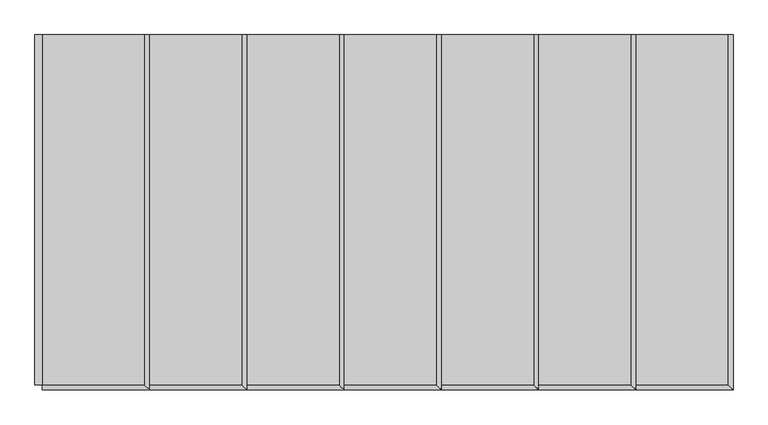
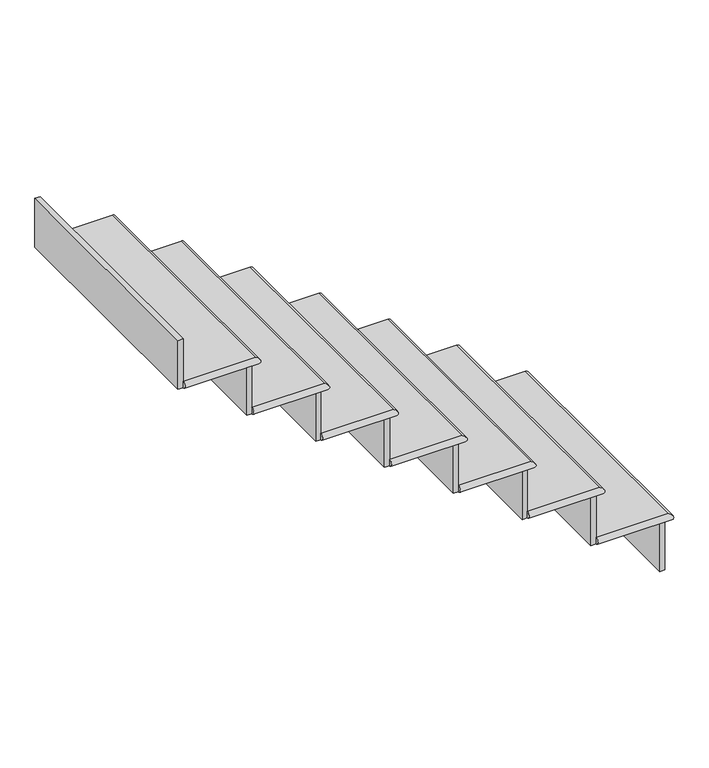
"""IFC4 building model written with IfcOpenShell, lengths in millimetres: stair flight geometry."""

from ifc_helpers import new_model, si_unit, frame, origin, place, context, project, spatial, circle_curve, ellipse_curve, faceted_brep, source, transform, mapped, element, save
from ifc_brep_helpers import plane_surface, cylinder_surface, advanced_brep


def stair_flight_56650358(model_context):
    return source(origin(), model_context, "Body", "SolidModel", [
        advanced_brep(
        [(-16016.7481446, -6.4871906, 1689.1), (-16016.7481446, -6.4871906, 1714.5), (-16016.7481446, -920.8871906, 1714.5), (-16016.7481446, -920.8871906, 1689.1), (-16283.4481446, -6.4871906, 1714.5), (-16283.4481446, -920.8871906, 1714.5), (-16283.4481446, -6.4871906, 1689.1), (-16283.4481446, -920.8871906, 1689.1)],
        [
            (0, 1, circle_curve(frame((-16016.7481446, -6.4871906, 1701.8), z_axis=(0.0, -1.0, 0.0), x_axis=(-1.0, 0.0, 0.0)), 12.7)),
            (1, 2),
            (2, 3, ellipse_curve(frame((-16016.7481446, -920.8871906, 1701.8), z_axis=(0.7071067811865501, 0.7071067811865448, 0.0), x_axis=(-0.7071067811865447, 0.7071067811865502, 0.0)), 17.9605122, 12.7)),
            (3, 0),
            (1, 4),
            (4, 5),
            (5, 2),
            (6, 0),
            (3, 7),
            (7, 6),
            (6, 4),
            (7, 5, circle_curve(frame((-16283.4481446, -920.8871906, 1701.8), z_axis=(-1.0, 0.0, 0.0), x_axis=(0.0, 1.0, 0.0)), 12.7)),
        ],
        [
            cylinder_surface(frame((-16016.7481446, -6.4871906, 1701.8), z_axis=(0.0, 1.0, 0.0), x_axis=(-1.0, 0.0, 0.0)), 12.7),
            plane_surface(frame((-16004.0481446, -920.8871906, 1714.5), z_axis=(0.0, 0.0, 1.0), x_axis=(1.0, 0.0, 0.0))),
            plane_surface(frame((-16004.0481446, -920.8871906, 1689.1), z_axis=(0.0, 0.0, -1.0), x_axis=(-1.0, 0.0, 0.0))),
            plane_surface(frame((-16016.7481446, -6.4871906, 1714.5), z_axis=(0.0, 1.0, 0.0), x_axis=(0.0, 0.0, -1.0))),
            plane_surface(frame((-16283.4481446, -6.4871906, 1714.5), z_axis=(-1.0, 0.0, 0.0), x_axis=(0.0, 0.0, -1.0))),
            cylinder_surface(frame((-16016.7481446, -920.8871906, 1701.8), z_axis=(1.0, 0.0, 0.0), x_axis=(0.0, 1.0, 0.0)), 12.7),
        ],
        [
            (0, [[1, 2, 3, 4]]),
            (1, [[5, 6, 7, -2]]),
            (2, [[8, -4, 9, 10]]),
            (3, [[-5, -1, -8, 11]]),
            (4, [[-6, -11, -10, 12]]),
            (5, [[-3, -7, -12, -9]]),
        ],
    ),
        faceted_brep([(-16029.4481446, -6.4871906, 1689.1), (-16029.4481446, -6.4871906, 1498.6), (-16048.4981446, -6.4871906, 1498.6), (-16048.4981446, -6.4871906, 1689.1), (-16029.4481446, -920.8871906, 1689.1), (-16048.4981446, -920.8871906, 1689.1), (-16048.4981446, -920.8871906, 1498.6), (-16029.4481446, -920.8871906, 1498.6)], [[[0, 1, 2, 3]], [[4, 5, 6, 7]], [[1, 0, 4, 7]], [[2, 1, 7, 6]], [[3, 2, 6, 5]], [[0, 3, 5, 4]]]),
        faceted_brep([(-16283.4481446, -6.4871906, 1879.6), (-16283.4481446, -6.4871906, 1689.1), (-16302.4981446, -6.4871906, 1689.1), (-16302.4981446, -6.4871906, 1879.6), (-16283.4481446, -920.8871906, 1879.6), (-16302.4981446, -920.8871906, 1879.6), (-16302.4981446, -920.8871906, 1689.1), (-16283.4481446, -920.8871906, 1689.1)], [[[0, 1, 2, 3]], [[4, 5, 6, 7]], [[1, 0, 4, 7]], [[2, 1, 7, 6]], [[3, 2, 6, 5]], [[0, 3, 5, 4]]]),
        advanced_brep(
        [(-16270.7481446, -6.4871906, 1905.0), (-16537.4481446, -6.4871906, 1905.0), (-16537.4481446, -920.8871906, 1905.0), (-16270.7481446, -920.8871906, 1905.0), (-16537.4481446, -6.4871906, 1879.6), (-16270.7481446, -6.4871906, 1879.6), (-16270.7481446, -920.8871906, 1879.6), (-16537.4481446, -920.8871906, 1879.6)],
        [
            (0, 1),
            (1, 2),
            (2, 3),
            (3, 0),
            (4, 5),
            (5, 6),
            (6, 7),
            (7, 4),
            (0, 5, circle_curve(frame((-16270.7481446, -6.4871906, 1892.3), z_axis=(0.0, 1.0, 0.0), x_axis=(-1.0, 0.0, 0.0)), 12.7)),
            (4, 1),
            (7, 2, circle_curve(frame((-16537.4481446, -920.8871906, 1892.3), z_axis=(-1.0, 0.0, 0.0), x_axis=(0.0, 1.0, 0.0)), 12.7)),
            (3, 6, ellipse_curve(frame((-16270.7481446, -920.8871906, 1892.3), z_axis=(0.7071067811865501, 0.7071067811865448, 0.0), x_axis=(-0.7071067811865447, 0.7071067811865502, 0.0)), 17.9605122, 12.7)),
        ],
        [
            plane_surface(frame((-16258.0481446, -920.8871906, 1905.0), z_axis=(0.0, 0.0, 1.0), x_axis=(1.0, 0.0, 0.0))),
            plane_surface(frame((-16258.0481446, -920.8871906, 1879.6), z_axis=(0.0, 0.0, -1.0), x_axis=(-1.0, 0.0, 0.0))),
            plane_surface(frame((-16270.7481446, -6.4871906, 1905.0), z_axis=(0.0, 1.0, 0.0), x_axis=(0.0, 0.0, -1.0))),
            plane_surface(frame((-16537.4481446, -6.4871906, 1905.0), z_axis=(-1.0, 0.0, 0.0), x_axis=(0.0, 0.0, -1.0))),
            cylinder_surface(frame((-16270.7481446, -6.4871906, 1892.3), z_axis=(0.0, 1.0, 0.0), x_axis=(-1.0, 0.0, 0.0)), 12.7),
            cylinder_surface(frame((-16270.7481446, -920.8871906, 1892.3), z_axis=(1.0, 0.0, 0.0), x_axis=(0.0, 1.0, 0.0)), 12.7),
        ],
        [
            (0, [[1, 2, 3, 4]]),
            (1, [[5, 6, 7, 8]]),
            (2, [[-1, 9, -5, 10]]),
            (3, [[-2, -10, -8, 11]]),
            (4, [[-9, -4, 12, -6]]),
            (5, [[-12, -3, -11, -7]]),
        ],
    ),
        faceted_brep([(-16537.4481446, -6.4871906, 2070.1), (-16537.4481446, -6.4871906, 1879.6), (-16556.4981446, -6.4871906, 1879.6), (-16556.4981446, -6.4871906, 2070.1), (-16537.4481446, -920.8871906, 2070.1), (-16556.4981446, -920.8871906, 2070.1), (-16556.4981446, -920.8871906, 1879.6), (-16537.4481446, -920.8871906, 1879.6)], [[[0, 1, 2, 3]], [[4, 5, 6, 7]], [[1, 0, 4, 7]], [[2, 1, 7, 6]], [[3, 2, 6, 5]], [[0, 3, 5, 4]]]),
        advanced_brep(
        [(-16524.7481446, -6.4871906, 2095.5), (-16791.4481446, -6.4871906, 2095.5), (-16791.4481446, -920.8871906, 2095.5), (-16524.7481446, -920.8871906, 2095.5), (-16791.4481446, -6.4871906, 2070.1), (-16524.7481446, -6.4871906, 2070.1), (-16524.7481446, -920.8871906, 2070.1), (-16791.4481446, -920.8871906, 2070.1)],
        [
            (0, 1),
            (1, 2),
            (2, 3),
            (3, 0),
            (4, 5),
            (5, 6),
            (6, 7),
            (7, 4),
            (0, 5, circle_curve(frame((-16524.7481446, -6.4871906, 2082.8), z_axis=(0.0, 1.0, 0.0), x_axis=(-1.0, 0.0, 0.0)), 12.7)),
            (4, 1),
            (7, 2, circle_curve(frame((-16791.4481446, -920.8871906, 2082.8), z_axis=(-1.0, 0.0, 0.0), x_axis=(0.0, 1.0, 0.0)), 12.7)),
            (3, 6, ellipse_curve(frame((-16524.7481446, -920.8871906, 2082.8), z_axis=(0.7071067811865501, 0.7071067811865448, 0.0), x_axis=(-0.7071067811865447, 0.7071067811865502, 0.0)), 17.9605122, 12.7)),
        ],
        [
            plane_surface(frame((-16512.0481446, -920.8871906, 2095.5), z_axis=(0.0, 0.0, 1.0), x_axis=(1.0, 0.0, 0.0))),
            plane_surface(frame((-16512.0481446, -920.8871906, 2070.1), z_axis=(0.0, 0.0, -1.0), x_axis=(-1.0, 0.0, 0.0))),
            plane_surface(frame((-16524.7481446, -6.4871906, 2095.5), z_axis=(0.0, 1.0, 0.0), x_axis=(0.0, 0.0, -1.0))),
            plane_surface(frame((-16791.4481446, -6.4871906, 2095.5), z_axis=(-1.0, 0.0, 0.0), x_axis=(0.0, 0.0, -1.0))),
            cylinder_surface(frame((-16524.7481446, -6.4871906, 2082.8), z_axis=(0.0, 1.0, 0.0), x_axis=(-1.0, 0.0, 0.0)), 12.7),
            cylinder_surface(frame((-16524.7481446, -920.8871906, 2082.8), z_axis=(1.0, 0.0, 0.0), x_axis=(0.0, 1.0, 0.0)), 12.7),
        ],
        [
            (0, [[1, 2, 3, 4]]),
            (1, [[5, 6, 7, 8]]),
            (2, [[-1, 9, -5, 10]]),
            (3, [[-2, -10, -8, 11]]),
            (4, [[-9, -4, 12, -6]]),
            (5, [[-12, -3, -11, -7]]),
        ],
    ),
        faceted_brep([(-16791.4481446, -6.4871906, 2260.6), (-16791.4481446, -6.4871906, 2070.1), (-16810.4981446, -6.4871906, 2070.1), (-16810.4981446, -6.4871906, 2260.6), (-16791.4481446, -920.8871906, 2260.6), (-16810.4981446, -920.8871906, 2260.6), (-16810.4981446, -920.8871906, 2070.1), (-16791.4481446, -920.8871906, 2070.1)], [[[0, 1, 2, 3]], [[4, 5, 6, 7]], [[1, 0, 4, 7]], [[2, 1, 7, 6]], [[3, 2, 6, 5]], [[0, 3, 5, 4]]]),
        advanced_brep(
        [(-16778.7481446, -6.4871906, 2286.0), (-17045.4481446, -6.4871906, 2286.0), (-17045.4481446, -920.8871906, 2286.0), (-16778.7481446, -920.8871906, 2286.0), (-17045.4481446, -6.4871906, 2260.6), (-16778.7481446, -6.4871906, 2260.6), (-16778.7481446, -920.8871906, 2260.6), (-17045.4481446, -920.8871906, 2260.6)],
        [
            (0, 1),
            (1, 2),
            (2, 3),
            (3, 0),
            (4, 5),
            (5, 6),
            (6, 7),
            (7, 4),
            (0, 5, circle_curve(frame((-16778.7481446, -6.4871906, 2273.3), z_axis=(0.0, 1.0, 0.0), x_axis=(-1.0, 0.0, 0.0)), 12.7)),
            (4, 1),
            (7, 2, circle_curve(frame((-17045.4481446, -920.8871906, 2273.3), z_axis=(-1.0, 0.0, 0.0), x_axis=(0.0, 1.0, 0.0)), 12.7)),
            (3, 6, ellipse_curve(frame((-16778.7481446, -920.8871906, 2273.3), z_axis=(0.7071067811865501, 0.7071067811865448, 0.0), x_axis=(-0.7071067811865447, 0.7071067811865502, 0.0)), 17.9605122, 12.7)),
        ],
        [
            plane_surface(frame((-16766.0481446, -920.8871906, 2286.0), z_axis=(0.0, 0.0, 1.0), x_axis=(1.0, 0.0, 0.0))),
            plane_surface(frame((-16766.0481446, -920.8871906, 2260.6), z_axis=(0.0, 0.0, -1.0), x_axis=(-1.0, 0.0, 0.0))),
            plane_surface(frame((-16778.7481446, -6.4871906, 2286.0), z_axis=(0.0, 1.0, 0.0), x_axis=(0.0, 0.0, -1.0))),
            plane_surface(frame((-17045.4481446, -6.4871906, 2286.0), z_axis=(-1.0, 0.0, 0.0), x_axis=(0.0, 0.0, -1.0))),
            cylinder_surface(frame((-16778.7481446, -6.4871906, 2273.3), z_axis=(0.0, 1.0, 0.0), x_axis=(-1.0, 0.0, 0.0)), 12.7),
            cylinder_surface(frame((-16778.7481446, -920.8871906, 2273.3), z_axis=(1.0, 0.0, 0.0), x_axis=(0.0, 1.0, 0.0)), 12.7),
        ],
        [
            (0, [[1, 2, 3, 4]]),
            (1, [[5, 6, 7, 8]]),
            (2, [[-1, 9, -5, 10]]),
            (3, [[-2, -10, -8, 11]]),
            (4, [[-9, -4, 12, -6]]),
            (5, [[-12, -3, -11, -7]]),
        ],
    ),
        faceted_brep([(-17045.4481446, -6.4871906, 2451.1), (-17045.4481446, -6.4871906, 2260.6), (-17064.4981446, -6.4871906, 2260.6), (-17064.4981446, -6.4871906, 2451.1), (-17045.4481446, -920.8871906, 2451.1), (-17064.4981446, -920.8871906, 2451.1), (-17064.4981446, -920.8871906, 2260.6), (-17045.4481446, -920.8871906, 2260.6)], [[[0, 1, 2, 3]], [[4, 5, 6, 7]], [[1, 0, 4, 7]], [[2, 1, 7, 6]], [[3, 2, 6, 5]], [[0, 3, 5, 4]]]),
        advanced_brep(
        [(-17032.7481446, -6.4871906, 2476.5), (-17299.4481446, -6.4871906, 2476.5), (-17299.4481446, -920.8871906, 2476.5), (-17032.7481446, -920.8871906, 2476.5), (-17299.4481446, -6.4871906, 2451.1), (-17032.7481446, -6.4871906, 2451.1), (-17032.7481446, -920.8871906, 2451.1), (-17299.4481446, -920.8871906, 2451.1)],
        [
            (0, 1),
            (1, 2),
            (2, 3),
            (3, 0),
            (4, 5),
            (5, 6),
            (6, 7),
            (7, 4),
            (0, 5, circle_curve(frame((-17032.7481446, -6.4871906, 2463.8), z_axis=(0.0, 1.0, 0.0), x_axis=(-1.0, 0.0, 0.0)), 12.7)),
            (4, 1),
            (7, 2, circle_curve(frame((-17299.4481446, -920.8871906, 2463.8), z_axis=(-1.0, 0.0, 0.0), x_axis=(0.0, 1.0, 0.0)), 12.7)),
            (3, 6, ellipse_curve(frame((-17032.7481446, -920.8871906, 2463.8), z_axis=(0.7071067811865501, 0.7071067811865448, 0.0), x_axis=(-0.7071067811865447, 0.7071067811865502, 0.0)), 17.9605122, 12.7)),
        ],
        [
            plane_surface(frame((-17020.0481446, -920.8871906, 2476.5), z_axis=(0.0, 0.0, 1.0), x_axis=(1.0, 0.0, 0.0))),
            plane_surface(frame((-17020.0481446, -920.8871906, 2451.1), z_axis=(0.0, 0.0, -1.0), x_axis=(-1.0, 0.0, 0.0))),
            plane_surface(frame((-17032.7481446, -6.4871906, 2476.5), z_axis=(0.0, 1.0, 0.0), x_axis=(0.0, 0.0, -1.0))),
            plane_surface(frame((-17299.4481446, -6.4871906, 2476.5), z_axis=(-1.0, 0.0, 0.0), x_axis=(0.0, 0.0, -1.0))),
            cylinder_surface(frame((-17032.7481446, -6.4871906, 2463.8), z_axis=(0.0, 1.0, 0.0), x_axis=(-1.0, 0.0, 0.0)), 12.7),
            cylinder_surface(frame((-17032.7481446, -920.8871906, 2463.8), z_axis=(1.0, 0.0, 0.0), x_axis=(0.0, 1.0, 0.0)), 12.7),
        ],
        [
            (0, [[1, 2, 3, 4]]),
            (1, [[5, 6, 7, 8]]),
            (2, [[-1, 9, -5, 10]]),
            (3, [[-2, -10, -8, 11]]),
            (4, [[-9, -4, 12, -6]]),
            (5, [[-12, -3, -11, -7]]),
        ],
    ),
        faceted_brep([(-17299.4481446, -6.4871906, 2641.6), (-17299.4481446, -6.4871906, 2451.1), (-17318.4981446, -6.4871906, 2451.1), (-17318.4981446, -6.4871906, 2641.6), (-17299.4481446, -920.8871906, 2641.6), (-17318.4981446, -920.8871906, 2641.6), (-17318.4981446, -920.8871906, 2451.1), (-17299.4481446, -920.8871906, 2451.1)], [[[0, 1, 2, 3]], [[4, 5, 6, 7]], [[1, 0, 4, 7]], [[2, 1, 7, 6]], [[3, 2, 6, 5]], [[0, 3, 5, 4]]]),
        advanced_brep(
        [(-17286.7481446, -6.4871906, 2667.0), (-17553.4481446, -6.4871906, 2667.0), (-17553.4481446, -920.8871906, 2667.0), (-17286.7481446, -920.8871906, 2667.0), (-17553.4481446, -6.4871906, 2641.6), (-17286.7481446, -6.4871906, 2641.6), (-17286.7481446, -920.8871906, 2641.6), (-17553.4481446, -920.8871906, 2641.6)],
        [
            (0, 1),
            (1, 2),
            (2, 3),
            (3, 0),
            (4, 5),
            (5, 6),
            (6, 7),
            (7, 4),
            (0, 5, circle_curve(frame((-17286.7481446, -6.4871906, 2654.3), z_axis=(0.0, 1.0, 0.0), x_axis=(-1.0, 0.0, 0.0)), 12.7)),
            (4, 1),
            (7, 2, circle_curve(frame((-17553.4481446, -920.8871906, 2654.3), z_axis=(-1.0, 0.0, 0.0), x_axis=(0.0, 1.0, 0.0)), 12.7)),
            (3, 6, ellipse_curve(frame((-17286.7481446, -920.8871906, 2654.3), z_axis=(0.7071067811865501, 0.7071067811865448, 0.0), x_axis=(-0.7071067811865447, 0.7071067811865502, 0.0)), 17.9605122, 12.7)),
        ],
        [
            plane_surface(frame((-17274.0481446, -920.8871906, 2667.0), z_axis=(0.0, 0.0, 1.0), x_axis=(1.0, 0.0, 0.0))),
            plane_surface(frame((-17274.0481446, -920.8871906, 2641.6), z_axis=(0.0, 0.0, -1.0), x_axis=(-1.0, 0.0, 0.0))),
            plane_surface(frame((-17286.7481446, -6.4871906, 2667.0), z_axis=(0.0, 1.0, 0.0), x_axis=(0.0, 0.0, -1.0))),
            plane_surface(frame((-17553.4481446, -6.4871906, 2667.0), z_axis=(-1.0, 0.0, 0.0), x_axis=(0.0, 0.0, -1.0))),
            cylinder_surface(frame((-17286.7481446, -6.4871906, 2654.3), z_axis=(0.0, 1.0, 0.0), x_axis=(-1.0, 0.0, 0.0)), 12.7),
            cylinder_surface(frame((-17286.7481446, -920.8871906, 2654.3), z_axis=(1.0, 0.0, 0.0), x_axis=(0.0, 1.0, 0.0)), 12.7),
        ],
        [
            (0, [[1, 2, 3, 4]]),
            (1, [[5, 6, 7, 8]]),
            (2, [[-1, 9, -5, 10]]),
            (3, [[-2, -10, -8, 11]]),
            (4, [[-9, -4, 12, -6]]),
            (5, [[-12, -3, -11, -7]]),
        ],
    ),
        faceted_brep([(-17553.4481446, -6.4871906, 2832.1), (-17553.4481446, -6.4871906, 2641.6), (-17572.4981446, -6.4871906, 2641.6), (-17572.4981446, -6.4871906, 2832.1), (-17553.4481446, -920.8871906, 2832.1), (-17572.4981446, -920.8871906, 2832.1), (-17572.4981446, -920.8871906, 2641.6), (-17553.4481446, -920.8871906, 2641.6)], [[[0, 1, 2, 3]], [[4, 5, 6, 7]], [[1, 0, 4, 7]], [[2, 1, 7, 6]], [[3, 2, 6, 5]], [[0, 3, 5, 4]]]),
        faceted_brep([(-17807.4481446, -6.4871906, 3022.6), (-17807.4481446, -6.4871906, 2832.1), (-17826.4981446, -6.4871906, 2832.1), (-17826.4981446, -6.4871906, 3022.6), (-17807.4481446, -920.8871906, 3022.6), (-17826.4981446, -920.8871906, 3022.6), (-17826.4981446, -920.8871906, 2832.1), (-17807.4481446, -920.8871906, 2832.1)], [[[0, 1, 2, 3]], [[4, 5, 6, 7]], [[1, 0, 4, 7]], [[2, 1, 7, 6]], [[3, 2, 6, 5]], [[0, 3, 5, 4]]]),
        advanced_brep(
        [(-17540.7481446, -6.4871906, 2857.5), (-17807.4481446, -6.4871906, 2857.5), (-17807.4481446, -920.8871906, 2857.5), (-17540.7481446, -920.8871906, 2857.5), (-17807.4481446, -6.4871906, 2832.1), (-17540.7481446, -6.4871906, 2832.1), (-17540.7481446, -920.8871906, 2832.1), (-17807.4481446, -920.8871906, 2832.1)],
        [
            (0, 1),
            (1, 2),
            (2, 3),
            (3, 0),
            (4, 5),
            (5, 6),
            (6, 7),
            (7, 4),
            (0, 5, circle_curve(frame((-17540.7481446, -6.4871906, 2844.8), z_axis=(0.0, 1.0, 0.0), x_axis=(-1.0, 0.0, 0.0)), 12.7)),
            (4, 1),
            (7, 2, circle_curve(frame((-17807.4481446, -920.8871906, 2844.8), z_axis=(-1.0, 0.0, 0.0), x_axis=(0.0, 1.0, 0.0)), 12.7)),
            (3, 6, ellipse_curve(frame((-17540.7481446, -920.8871906, 2844.8), z_axis=(0.7071067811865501, 0.7071067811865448, 0.0), x_axis=(-0.7071067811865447, 0.7071067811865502, 0.0)), 17.9605122, 12.7)),
        ],
        [
            plane_surface(frame((-17528.0481446, -920.8871906, 2857.5), z_axis=(0.0, 0.0, 1.0), x_axis=(1.0, 0.0, 0.0))),
            plane_surface(frame((-17528.0481446, -920.8871906, 2832.1), z_axis=(0.0, 0.0, -1.0), x_axis=(-1.0, 0.0, 0.0))),
            plane_surface(frame((-17540.7481446, -6.4871906, 2857.5), z_axis=(0.0, 1.0, 0.0), x_axis=(0.0, 0.0, -1.0))),
            plane_surface(frame((-17807.4481446, -6.4871906, 2857.5), z_axis=(-1.0, 0.0, 0.0), x_axis=(0.0, 0.0, -1.0))),
            cylinder_surface(frame((-17540.7481446, -6.4871906, 2844.8), z_axis=(0.0, 1.0, 0.0), x_axis=(-1.0, 0.0, 0.0)), 12.7),
            cylinder_surface(frame((-17540.7481446, -920.8871906, 2844.8), z_axis=(1.0, 0.0, 0.0), x_axis=(0.0, 1.0, 0.0)), 12.7),
        ],
        [
            (0, [[1, 2, 3, 4]]),
            (1, [[5, 6, 7, 8]]),
            (2, [[-1, 9, -5, 10]]),
            (3, [[-2, -10, -8, 11]]),
            (4, [[-9, -4, 12, -6]]),
            (5, [[-12, -3, -11, -7]]),
        ],
    ),
    ])


if __name__ == "__main__":
    model = new_model("IFC4")
    model_context = context("Model", 3, world=origin())
    ifc_project = project(units=[si_unit("LENGTHUNIT", "METRE", prefix="MILLI")], contexts=[model_context])
    site = spatial("IfcSite", under=ifc_project)
    building = spatial("IfcBuilding", under=site)
    placement = place(None, origin())
    stair_flight_shape = stair_flight_56650358(model_context)
    element("IfcStairFlight", 1, ObjectType="Unassigned Steps with 1\" Tread 1\" Nosing 3/4\" Riser (3)", at=placement, inside=building, context=model_context, shape_type="MappedRepresentation", body=[
        mapped(stair_flight_shape, transform((0.0, 0.0, 0.0), x_axis=(1.0, 0.0, 0.0), y_axis=(0.0, 1.0, 0.0), z_axis=(0.0, 0.0, 1.0))),
    ])
    save(model, "model.ifc")
